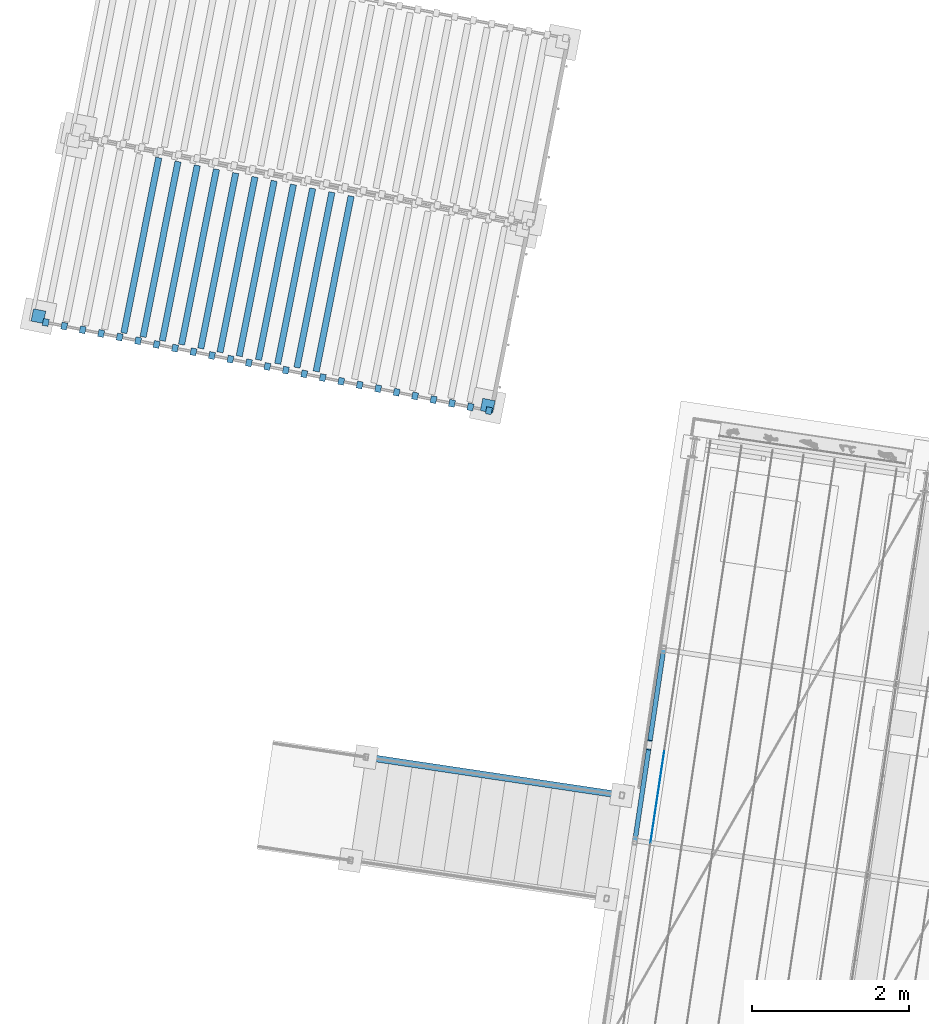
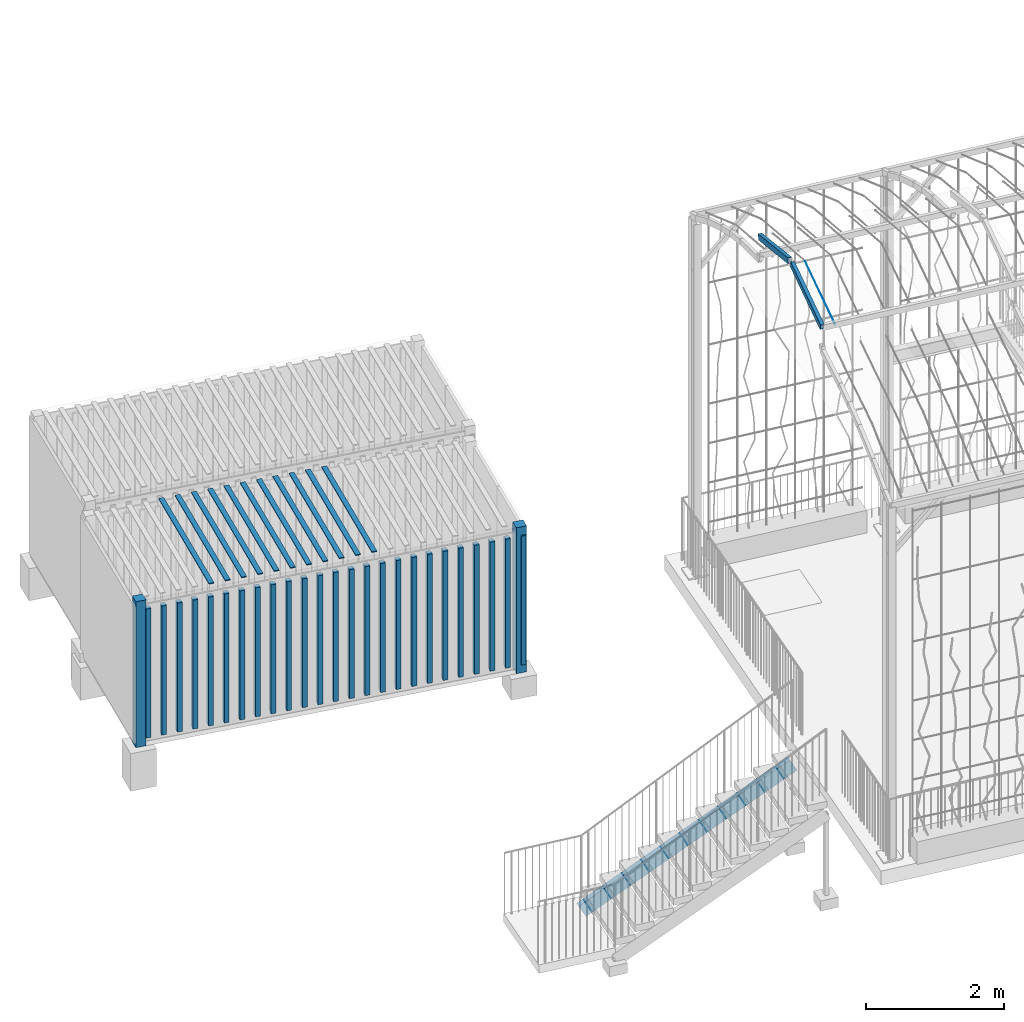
# One storey, part 26 of 142: 42 members, 3 elements without a shape of their own.
"""IFC4 building model written with IfcOpenShell, lengths in metres."""

from ifc_helpers import new_model, si_unit, direction, frame, origin_with_axes, place, context, subcontext, project, spatial, polyline, hollow_rectangle, circle, outline, extrude, material, material_profile, profile_set, profile_usage, type_object, element, aggregate, save


model = new_model("IFC4")

# Units and contexts
model_context = context("Model", 3, precision=1e-05, world=origin_with_axes(), true_north=direction((0.0, 1.0)))
body_context = subcontext(model_context, "Body", "Model", "MODEL_VIEW")
ifc_project = project(units=[si_unit("LENGTHUNIT", "METRE"), si_unit("AREAUNIT", "SQUARE_METRE"), si_unit("VOLUMEUNIT", "CUBIC_METRE")], contexts=[model_context])

# Site, building, storey
site_placement = place(None, origin_with_axes())
site = spatial("IfcSite", under=ifc_project, at=site_placement, Name="Lares · Rua das Mercês · artigo 4771")
building_placement = place(site_placement, frame((15.0, 9.7, 14.65), z_axis=(0.0, 0.0, 1.0), x_axis=(0.989015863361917, -0.147809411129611, 0.0)))
building = spatial("IfcBuilding", under=site, at=building_placement, Name="Casa Sobreposta")
storey_placement = place(building_placement, origin_with_axes())
storey = spatial("IfcBuildingStorey", under=building, at=storey_placement, Name="00 · Habitação e estacionamento", Elevation=14.65)

# Stair, member
stair_placement = place(storey_placement, origin_with_axes())
stair = element("IfcStair", 1, at=stair_placement, inside=storey, Name="Jardim · escada pela fachada poente", PredefinedType="STRAIGHT_RUN_STAIR")
ifc_material_1 = material(Name="Aço pintado / Stahl lackiert", Category="steel")
ifc_material_profile_1 = material_profile(ifc_material_1, outline(polyline([(-0.0425, -0.12), (0.0425, -0.12), (0.0425, -0.1102), (-0.0325, -0.1102), (-0.0325, 0.1102), (0.0425, 0.1102), (0.0425, 0.12), (-0.0425, 0.12), (-0.0425, -0.12)])))
ifc_profile_set_1 = profile_set([ifc_material_profile_1], Name="C240")
ifc_profile_usage_1 = profile_usage(ifc_profile_set_1)
member_type_1 = type_object("IfcMemberType", Name="C240 / steel", PredefinedType="NOTDEFINED", material=ifc_profile_set_1)
member_1_placement = place(stair_placement, frame((-6.25, 1.765, -0.419166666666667), z_axis=(-0.883369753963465, 0.0, -0.468676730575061), x_axis=(0.0, 1.0, 0.0)))
member_1 = element("IfcMember", 2, at=member_1_placement, type_object=member_type_1, material=ifc_profile_usage_1, Name="Jardim · longarina poente", context=body_context, shape_type="SweptSolid", body=[
    extrude(outline(polyline([(-0.0425, -0.12), (0.0425, -0.12), (0.0425, -0.1102), (-0.0325, -0.1102), (-0.0325, 0.1102), (0.0425, 0.1102), (0.0425, 0.12), (-0.0425, 0.12), (-0.0425, -0.12)])), origin_with_axes(), (0.0, 0.0, 1.0), 3.73569503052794),
])
aggregate(stair, [member_1])

# Assembly, members
assembly_1_placement = place(storey_placement, origin_with_axes())
assembly_1 = element("IfcElementAssembly", 3, at=assembly_1_placement, inside=storey, Name="Pérgola · prolongamento da estufa 6 m", ObjectType="PERGOLA_GREENHOUSE_EXTENSION", PredefinedType="USERDEFINED")
ifc_material_profile_2 = material_profile(ifc_material_1, hollow_rectangle(XDim=0.06, YDim=0.1, WallThickness=0.004))
ifc_profile_set_2 = profile_set([ifc_material_profile_2], Name="RHS100x60x4")
ifc_profile_usage_2 = profile_usage(ifc_profile_set_2)
member_type_2 = type_object("IfcMemberType", Name="RHS100x60x4 / steel", PredefinedType="NOTDEFINED", material=ifc_profile_set_2)
member_2_placement = place(assembly_1_placement, frame((-6.0, 1.22042020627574, 7.62067689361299), z_axis=(0.0, 0.960073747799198, 0.279747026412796), x_axis=(1.0, 0.0, 0.0)))
member_2 = element("IfcMember", 4, at=member_2_placement, type_object=member_type_2, material=ifc_profile_usage_2, Name="Pérgola · arco contínuo com a estufa", context=body_context, shape_type="SweptSolid", body=[
    extrude(hollow_rectangle(XDim=0.06, YDim=0.1, WallThickness=0.004), origin_with_axes(), (0.0, 0.0, 1.0), 1.23148937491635),
])
ifc_profile_usage_3 = profile_usage(ifc_profile_set_2)
member_3_placement = place(assembly_1_placement, frame((-6.0, 2.49770027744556, 7.96518238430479), z_axis=(0.0, 0.96007374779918, -0.279747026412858), x_axis=(1.0, 0.0, 0.0)))
member_3 = element("IfcMember", 5, at=member_3_placement, type_object=member_type_2, material=ifc_profile_usage_3, Name="Pérgola · arco contínuo com a estufa", context=body_context, shape_type="SweptSolid", body=[
    extrude(hollow_rectangle(XDim=0.06, YDim=0.1, WallThickness=0.004), origin_with_axes(), (0.0, 0.0, 1.0), 1.23148937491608),
])
ifc_material_2 = material(Name="Aço galvanizado / Stahl verzinkt", Category="steel")
ifc_material_profile_3 = material_profile(ifc_material_2, circle(Radius=0.002))
ifc_profile_set_3 = profile_set([ifc_material_profile_3], Name="D0.004")
ifc_profile_usage_4 = profile_usage(ifc_profile_set_3)
member_type_3 = type_object("IfcMemberType", Name="D0.004 / galvanized", PredefinedType="NOTDEFINED", material=ifc_profile_set_3)
member_4_placement = place(assembly_1_placement, frame((-5.8, 1.22042020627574, 7.62067689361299), z_axis=(0.0, 0.960073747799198, 0.279747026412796), x_axis=(1.0, 0.0, 0.0)))
member_4 = element("IfcMember", 6, at=member_4_placement, type_object=member_type_3, material=ifc_profile_usage_4, Name="Pérgola · fio para trepadeiras", context=body_context, shape_type="SweptSolid", body=[
    extrude(circle(Radius=0.002), origin_with_axes(), (0.0, 0.0, 1.0), 1.23148937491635),
])
aggregate(assembly_1, [member_2, member_3, member_4])

assembly_2_placement = place(storey_placement, frame((-14.5932944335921, 6.63122214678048, 0.0), z_axis=(0.0, 0.0, 1.0), x_axis=(0.998832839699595, -0.0483007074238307, 0.0)))
assembly_2 = element("IfcElementAssembly", 7, at=assembly_2_placement, inside=storey, Name="Contentor existente 2 · 6 m", ObjectType="EXISTING_SHIPPING_CONTAINER", PredefinedType="USERDEFINED")
ifc_material_3 = material(Name="Contentor · pintura 2", Category="steel")
member_5_placement = place(assembly_2_placement, frame((0.0, 0.0, -1.16875169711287), z_axis=(0.0, 0.0, 1.0), x_axis=(1.0, 0.0, 0.0)))
member_5 = element("IfcMember", 8, at=member_5_placement, material=ifc_material_3, Name="Contentor · canto", context=body_context, shape_type="SweptSolid", body=[
    extrude(outline(polyline([(0.16, 0.0), (0.16, 0.16), (0.0, 0.16), (0.0, 0.0), (0.16, 0.0)])), origin_with_axes(), (0.0, 0.0, 1.0), 2.59),
])
member_6_placement = place(assembly_2_placement, frame((0.0, 0.0, -1.16875169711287), z_axis=(0.0, 0.0, 1.0), x_axis=(1.0, 0.0, 0.0)))
member_6 = element("IfcMember", 9, at=member_6_placement, material=ifc_material_3, Name="Contentor · canto", context=body_context, shape_type="SweptSolid", body=[
    extrude(outline(polyline([(6.0, 0.0), (6.0, 0.16), (5.84, 0.16), (5.84, 0.0), (6.0, 0.0)])), origin_with_axes(), (0.0, 0.0, 1.0), 2.59),
])
member_7_placement = place(assembly_2_placement, frame((0.0, 0.0, -1.01875169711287), z_axis=(0.0, 0.0, 1.0), x_axis=(1.0, 0.0, 0.0)))
member_7 = element("IfcMember", 10, at=member_7_placement, material=ifc_material_3, Name="Contentor · nervura lateral", context=body_context, shape_type="SweptSolid", body=[
    extrude(outline(polyline([(0.225, -0.025), (0.225, 0.065), (0.15, 0.065), (0.15, -0.025), (0.225, -0.025)])), origin_with_axes(), (0.0, 0.0, 1.0), 2.29),
])
member_8_placement = place(assembly_2_placement, frame((0.0, 0.0, -1.01875169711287), z_axis=(0.0, 0.0, 1.0), x_axis=(1.0, 0.0, 0.0)))
member_8 = element("IfcMember", 11, at=member_8_placement, material=ifc_material_3, Name="Contentor · nervura lateral", context=body_context, shape_type="SweptSolid", body=[
    extrude(outline(polyline([(0.465, -0.025), (0.465, 0.065), (0.39, 0.065), (0.39, -0.025), (0.465, -0.025)])), origin_with_axes(), (0.0, 0.0, 1.0), 2.29),
])
member_9_placement = place(assembly_2_placement, frame((0.0, 0.0, -1.01875169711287), z_axis=(0.0, 0.0, 1.0), x_axis=(1.0, 0.0, 0.0)))
member_9 = element("IfcMember", 12, at=member_9_placement, material=ifc_material_3, Name="Contentor · nervura lateral", context=body_context, shape_type="SweptSolid", body=[
    extrude(outline(polyline([(0.705, -0.025), (0.705, 0.065), (0.63, 0.065), (0.63, -0.025), (0.705, -0.025)])), origin_with_axes(), (0.0, 0.0, 1.0), 2.29),
])
member_10_placement = place(assembly_2_placement, frame((0.0, 0.0, -1.01875169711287), z_axis=(0.0, 0.0, 1.0), x_axis=(1.0, 0.0, 0.0)))
member_10 = element("IfcMember", 13, at=member_10_placement, material=ifc_material_3, Name="Contentor · nervura lateral", context=body_context, shape_type="SweptSolid", body=[
    extrude(outline(polyline([(0.945, -0.025), (0.945, 0.065), (0.87, 0.065), (0.87, -0.025), (0.945, -0.025)])), origin_with_axes(), (0.0, 0.0, 1.0), 2.29),
])
member_11_placement = place(assembly_2_placement, frame((0.0, 0.0, -1.01875169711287), z_axis=(0.0, 0.0, 1.0), x_axis=(1.0, 0.0, 0.0)))
member_11 = element("IfcMember", 14, at=member_11_placement, material=ifc_material_3, Name="Contentor · nervura lateral", context=body_context, shape_type="SweptSolid", body=[
    extrude(outline(polyline([(1.185, -0.025), (1.185, 0.065), (1.11, 0.065), (1.11, -0.025), (1.185, -0.025)])), origin_with_axes(), (0.0, 0.0, 1.0), 2.29),
])
member_12_placement = place(assembly_2_placement, frame((0.0, 0.0, -1.01875169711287), z_axis=(0.0, 0.0, 1.0), x_axis=(1.0, 0.0, 0.0)))
member_12 = element("IfcMember", 15, at=member_12_placement, material=ifc_material_3, Name="Contentor · nervura lateral", context=body_context, shape_type="SweptSolid", body=[
    extrude(outline(polyline([(1.425, -0.025), (1.425, 0.065), (1.35, 0.065), (1.35, -0.025), (1.425, -0.025)])), origin_with_axes(), (0.0, 0.0, 1.0), 2.29),
])
member_13_placement = place(assembly_2_placement, frame((0.0, 0.0, -1.01875169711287), z_axis=(0.0, 0.0, 1.0), x_axis=(1.0, 0.0, 0.0)))
member_13 = element("IfcMember", 16, at=member_13_placement, material=ifc_material_3, Name="Contentor · nervura lateral", context=body_context, shape_type="SweptSolid", body=[
    extrude(outline(polyline([(1.665, -0.025), (1.665, 0.065), (1.59, 0.065), (1.59, -0.025), (1.665, -0.025)])), origin_with_axes(), (0.0, 0.0, 1.0), 2.29),
])
member_14_placement = place(assembly_2_placement, frame((0.0, 0.0, -1.01875169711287), z_axis=(0.0, 0.0, 1.0), x_axis=(1.0, 0.0, 0.0)))
member_14 = element("IfcMember", 17, at=member_14_placement, material=ifc_material_3, Name="Contentor · nervura lateral", context=body_context, shape_type="SweptSolid", body=[
    extrude(outline(polyline([(1.905, -0.025), (1.905, 0.065), (1.83, 0.065), (1.83, -0.025), (1.905, -0.025)])), origin_with_axes(), (0.0, 0.0, 1.0), 2.29),
])
member_15_placement = place(assembly_2_placement, frame((0.0, 0.0, -1.01875169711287), z_axis=(0.0, 0.0, 1.0), x_axis=(1.0, 0.0, 0.0)))
member_15 = element("IfcMember", 18, at=member_15_placement, material=ifc_material_3, Name="Contentor · nervura lateral", context=body_context, shape_type="SweptSolid", body=[
    extrude(outline(polyline([(2.145, -0.025), (2.145, 0.065), (2.07, 0.065), (2.07, -0.025), (2.145, -0.025)])), origin_with_axes(), (0.0, 0.0, 1.0), 2.29),
])
member_16_placement = place(assembly_2_placement, frame((0.0, 0.0, -1.01875169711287), z_axis=(0.0, 0.0, 1.0), x_axis=(1.0, 0.0, 0.0)))
member_16 = element("IfcMember", 19, at=member_16_placement, material=ifc_material_3, Name="Contentor · nervura lateral", context=body_context, shape_type="SweptSolid", body=[
    extrude(outline(polyline([(2.385, -0.025), (2.385, 0.065), (2.31, 0.065), (2.31, -0.025), (2.385, -0.025)])), origin_with_axes(), (0.0, 0.0, 1.0), 2.29),
])
member_17_placement = place(assembly_2_placement, frame((0.0, 0.0, -1.01875169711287), z_axis=(0.0, 0.0, 1.0), x_axis=(1.0, 0.0, 0.0)))
member_17 = element("IfcMember", 20, at=member_17_placement, material=ifc_material_3, Name="Contentor · nervura lateral", context=body_context, shape_type="SweptSolid", body=[
    extrude(outline(polyline([(2.625, -0.025), (2.625, 0.065), (2.55, 0.065), (2.55, -0.025), (2.625, -0.025)])), origin_with_axes(), (0.0, 0.0, 1.0), 2.29),
])
member_18_placement = place(assembly_2_placement, frame((0.0, 0.0, -1.01875169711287), z_axis=(0.0, 0.0, 1.0), x_axis=(1.0, 0.0, 0.0)))
member_18 = element("IfcMember", 21, at=member_18_placement, material=ifc_material_3, Name="Contentor · nervura lateral", context=body_context, shape_type="SweptSolid", body=[
    extrude(outline(polyline([(2.865, -0.025), (2.865, 0.065), (2.79, 0.065), (2.79, -0.025), (2.865, -0.025)])), origin_with_axes(), (0.0, 0.0, 1.0), 2.29),
])
member_19_placement = place(assembly_2_placement, frame((0.0, 0.0, -1.01875169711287), z_axis=(0.0, 0.0, 1.0), x_axis=(1.0, 0.0, 0.0)))
member_19 = element("IfcMember", 22, at=member_19_placement, material=ifc_material_3, Name="Contentor · nervura lateral", context=body_context, shape_type="SweptSolid", body=[
    extrude(outline(polyline([(3.105, -0.025), (3.105, 0.065), (3.03, 0.065), (3.03, -0.025), (3.105, -0.025)])), origin_with_axes(), (0.0, 0.0, 1.0), 2.29),
])
member_20_placement = place(assembly_2_placement, frame((0.0, 0.0, -1.01875169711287), z_axis=(0.0, 0.0, 1.0), x_axis=(1.0, 0.0, 0.0)))
member_20 = element("IfcMember", 23, at=member_20_placement, material=ifc_material_3, Name="Contentor · nervura lateral", context=body_context, shape_type="SweptSolid", body=[
    extrude(outline(polyline([(3.345, -0.025), (3.345, 0.065), (3.27, 0.065), (3.27, -0.025), (3.345, -0.025)])), origin_with_axes(), (0.0, 0.0, 1.0), 2.29),
])
member_21_placement = place(assembly_2_placement, frame((0.0, 0.0, -1.01875169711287), z_axis=(0.0, 0.0, 1.0), x_axis=(1.0, 0.0, 0.0)))
member_21 = element("IfcMember", 24, at=member_21_placement, material=ifc_material_3, Name="Contentor · nervura lateral", context=body_context, shape_type="SweptSolid", body=[
    extrude(outline(polyline([(3.585, -0.025), (3.585, 0.065), (3.51, 0.065), (3.51, -0.025), (3.585, -0.025)])), origin_with_axes(), (0.0, 0.0, 1.0), 2.29),
])
member_22_placement = place(assembly_2_placement, frame((0.0, 0.0, -1.01875169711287), z_axis=(0.0, 0.0, 1.0), x_axis=(1.0, 0.0, 0.0)))
member_22 = element("IfcMember", 25, at=member_22_placement, material=ifc_material_3, Name="Contentor · nervura lateral", context=body_context, shape_type="SweptSolid", body=[
    extrude(outline(polyline([(3.825, -0.025), (3.825, 0.065), (3.75, 0.065), (3.75, -0.025), (3.825, -0.025)])), origin_with_axes(), (0.0, 0.0, 1.0), 2.29),
])
member_23_placement = place(assembly_2_placement, frame((0.0, 0.0, -1.01875169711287), z_axis=(0.0, 0.0, 1.0), x_axis=(1.0, 0.0, 0.0)))
member_23 = element("IfcMember", 26, at=member_23_placement, material=ifc_material_3, Name="Contentor · nervura lateral", context=body_context, shape_type="SweptSolid", body=[
    extrude(outline(polyline([(4.065, -0.025), (4.065, 0.065), (3.99, 0.065), (3.99, -0.025), (4.065, -0.025)])), origin_with_axes(), (0.0, 0.0, 1.0), 2.29),
])
member_24_placement = place(assembly_2_placement, frame((0.0, 0.0, -1.01875169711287), z_axis=(0.0, 0.0, 1.0), x_axis=(1.0, 0.0, 0.0)))
member_24 = element("IfcMember", 27, at=member_24_placement, material=ifc_material_3, Name="Contentor · nervura lateral", context=body_context, shape_type="SweptSolid", body=[
    extrude(outline(polyline([(4.305, -0.025), (4.305, 0.065), (4.23, 0.065), (4.23, -0.025), (4.305, -0.025)])), origin_with_axes(), (0.0, 0.0, 1.0), 2.29),
])
member_25_placement = place(assembly_2_placement, frame((0.0, 0.0, -1.01875169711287), z_axis=(0.0, 0.0, 1.0), x_axis=(1.0, 0.0, 0.0)))
member_25 = element("IfcMember", 28, at=member_25_placement, material=ifc_material_3, Name="Contentor · nervura lateral", context=body_context, shape_type="SweptSolid", body=[
    extrude(outline(polyline([(4.545, -0.025), (4.545, 0.065), (4.47, 0.065), (4.47, -0.025), (4.545, -0.025)])), origin_with_axes(), (0.0, 0.0, 1.0), 2.29),
])
member_26_placement = place(assembly_2_placement, frame((0.0, 0.0, -1.01875169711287), z_axis=(0.0, 0.0, 1.0), x_axis=(1.0, 0.0, 0.0)))
member_26 = element("IfcMember", 29, at=member_26_placement, material=ifc_material_3, Name="Contentor · nervura lateral", context=body_context, shape_type="SweptSolid", body=[
    extrude(outline(polyline([(4.785, -0.025), (4.785, 0.065), (4.71, 0.065), (4.71, -0.025), (4.785, -0.025)])), origin_with_axes(), (0.0, 0.0, 1.0), 2.29),
])
member_27_placement = place(assembly_2_placement, frame((0.0, 0.0, -1.01875169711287), z_axis=(0.0, 0.0, 1.0), x_axis=(1.0, 0.0, 0.0)))
member_27 = element("IfcMember", 30, at=member_27_placement, material=ifc_material_3, Name="Contentor · nervura lateral", context=body_context, shape_type="SweptSolid", body=[
    extrude(outline(polyline([(5.025, -0.025), (5.025, 0.065), (4.95, 0.065), (4.95, -0.025), (5.025, -0.025)])), origin_with_axes(), (0.0, 0.0, 1.0), 2.29),
])
member_28_placement = place(assembly_2_placement, frame((0.0, 0.0, -1.01875169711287), z_axis=(0.0, 0.0, 1.0), x_axis=(1.0, 0.0, 0.0)))
member_28 = element("IfcMember", 31, at=member_28_placement, material=ifc_material_3, Name="Contentor · nervura lateral", context=body_context, shape_type="SweptSolid", body=[
    extrude(outline(polyline([(5.265, -0.025), (5.265, 0.065), (5.19, 0.065), (5.19, -0.025), (5.265, -0.025)])), origin_with_axes(), (0.0, 0.0, 1.0), 2.29),
])
member_29_placement = place(assembly_2_placement, frame((0.0, 0.0, -1.01875169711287), z_axis=(0.0, 0.0, 1.0), x_axis=(1.0, 0.0, 0.0)))
member_29 = element("IfcMember", 32, at=member_29_placement, material=ifc_material_3, Name="Contentor · nervura lateral", context=body_context, shape_type="SweptSolid", body=[
    extrude(outline(polyline([(5.505, -0.025), (5.505, 0.065), (5.43, 0.065), (5.43, -0.025), (5.505, -0.025)])), origin_with_axes(), (0.0, 0.0, 1.0), 2.29),
])
member_30_placement = place(assembly_2_placement, frame((0.0, 0.0, -1.01875169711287), z_axis=(0.0, 0.0, 1.0), x_axis=(1.0, 0.0, 0.0)))
member_30 = element("IfcMember", 33, at=member_30_placement, material=ifc_material_3, Name="Contentor · nervura lateral", context=body_context, shape_type="SweptSolid", body=[
    extrude(outline(polyline([(5.745, -0.025), (5.745, 0.065), (5.67, 0.065), (5.67, -0.025), (5.745, -0.025)])), origin_with_axes(), (0.0, 0.0, 1.0), 2.29),
])
member_31_placement = place(assembly_2_placement, frame((0.0, 0.0, -1.01875169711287), z_axis=(0.0, 0.0, 1.0), x_axis=(1.0, 0.0, 0.0)))
member_31 = element("IfcMember", 34, at=member_31_placement, material=ifc_material_3, Name="Contentor · nervura lateral", context=body_context, shape_type="SweptSolid", body=[
    extrude(outline(polyline([(5.985, -0.025), (5.985, 0.065), (5.91, 0.065), (5.91, -0.025), (5.985, -0.025)])), origin_with_axes(), (0.0, 0.0, 1.0), 2.29),
])
member_32_placement = place(assembly_2_placement, frame((0.0, 0.0, 1.41624830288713), z_axis=(0.0, 0.0, 1.0), x_axis=(1.0, 0.0, 0.0)))
member_32 = element("IfcMember", 35, at=member_32_placement, material=ifc_material_3, Name="Contentor · nervura cobertura", context=body_context, shape_type="SweptSolid", body=[
    extrude(outline(polyline([(1.23, 0.08), (1.23, 2.36), (1.15, 2.36), (1.15, 0.08), (1.23, 0.08)])), origin_with_axes(), (0.0, 0.0, 1.0), 0.018),
])
member_33_placement = place(assembly_2_placement, frame((0.0, 0.0, 1.41624830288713), z_axis=(0.0, 0.0, 1.0), x_axis=(1.0, 0.0, 0.0)))
member_33 = element("IfcMember", 36, at=member_33_placement, material=ifc_material_3, Name="Contentor · nervura cobertura", context=body_context, shape_type="SweptSolid", body=[
    extrude(outline(polyline([(1.48, 0.08), (1.48, 2.36), (1.4, 2.36), (1.4, 0.08), (1.48, 0.08)])), origin_with_axes(), (0.0, 0.0, 1.0), 0.018),
])
member_34_placement = place(assembly_2_placement, frame((0.0, 0.0, 1.41624830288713), z_axis=(0.0, 0.0, 1.0), x_axis=(1.0, 0.0, 0.0)))
member_34 = element("IfcMember", 37, at=member_34_placement, material=ifc_material_3, Name="Contentor · nervura cobertura", context=body_context, shape_type="SweptSolid", body=[
    extrude(outline(polyline([(1.73, 0.08), (1.73, 2.36), (1.65, 2.36), (1.65, 0.08), (1.73, 0.08)])), origin_with_axes(), (0.0, 0.0, 1.0), 0.018),
])
member_35_placement = place(assembly_2_placement, frame((0.0, 0.0, 1.41624830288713), z_axis=(0.0, 0.0, 1.0), x_axis=(1.0, 0.0, 0.0)))
member_35 = element("IfcMember", 38, at=member_35_placement, material=ifc_material_3, Name="Contentor · nervura cobertura", context=body_context, shape_type="SweptSolid", body=[
    extrude(outline(polyline([(1.98, 0.08), (1.98, 2.36), (1.9, 2.36), (1.9, 0.08), (1.98, 0.08)])), origin_with_axes(), (0.0, 0.0, 1.0), 0.018),
])
member_36_placement = place(assembly_2_placement, frame((0.0, 0.0, 1.41624830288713), z_axis=(0.0, 0.0, 1.0), x_axis=(1.0, 0.0, 0.0)))
member_36 = element("IfcMember", 39, at=member_36_placement, material=ifc_material_3, Name="Contentor · nervura cobertura", context=body_context, shape_type="SweptSolid", body=[
    extrude(outline(polyline([(2.23, 0.08), (2.23, 2.36), (2.15, 2.36), (2.15, 0.08), (2.23, 0.08)])), origin_with_axes(), (0.0, 0.0, 1.0), 0.018),
])
member_37_placement = place(assembly_2_placement, frame((0.0, 0.0, 1.41624830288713), z_axis=(0.0, 0.0, 1.0), x_axis=(1.0, 0.0, 0.0)))
member_37 = element("IfcMember", 40, at=member_37_placement, material=ifc_material_3, Name="Contentor · nervura cobertura", context=body_context, shape_type="SweptSolid", body=[
    extrude(outline(polyline([(2.48, 0.08), (2.48, 2.36), (2.4, 2.36), (2.4, 0.08), (2.48, 0.08)])), origin_with_axes(), (0.0, 0.0, 1.0), 0.018),
])
member_38_placement = place(assembly_2_placement, frame((0.0, 0.0, 1.41624830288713), z_axis=(0.0, 0.0, 1.0), x_axis=(1.0, 0.0, 0.0)))
member_38 = element("IfcMember", 41, at=member_38_placement, material=ifc_material_3, Name="Contentor · nervura cobertura", context=body_context, shape_type="SweptSolid", body=[
    extrude(outline(polyline([(2.73, 0.08), (2.73, 2.36), (2.65, 2.36), (2.65, 0.08), (2.73, 0.08)])), origin_with_axes(), (0.0, 0.0, 1.0), 0.018),
])
member_39_placement = place(assembly_2_placement, frame((0.0, 0.0, 1.41624830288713), z_axis=(0.0, 0.0, 1.0), x_axis=(1.0, 0.0, 0.0)))
member_39 = element("IfcMember", 42, at=member_39_placement, material=ifc_material_3, Name="Contentor · nervura cobertura", context=body_context, shape_type="SweptSolid", body=[
    extrude(outline(polyline([(2.98, 0.08), (2.98, 2.36), (2.9, 2.36), (2.9, 0.08), (2.98, 0.08)])), origin_with_axes(), (0.0, 0.0, 1.0), 0.018),
])
member_40_placement = place(assembly_2_placement, frame((0.0, 0.0, 1.41624830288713), z_axis=(0.0, 0.0, 1.0), x_axis=(1.0, 0.0, 0.0)))
member_40 = element("IfcMember", 43, at=member_40_placement, material=ifc_material_3, Name="Contentor · nervura cobertura", context=body_context, shape_type="SweptSolid", body=[
    extrude(outline(polyline([(3.23, 0.08), (3.23, 2.36), (3.15, 2.36), (3.15, 0.08), (3.23, 0.08)])), origin_with_axes(), (0.0, 0.0, 1.0), 0.018),
])
member_41_placement = place(assembly_2_placement, frame((0.0, 0.0, 1.41624830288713), z_axis=(0.0, 0.0, 1.0), x_axis=(1.0, 0.0, 0.0)))
member_41 = element("IfcMember", 44, at=member_41_placement, material=ifc_material_3, Name="Contentor · nervura cobertura", context=body_context, shape_type="SweptSolid", body=[
    extrude(outline(polyline([(3.48, 0.08), (3.48, 2.36), (3.4, 2.36), (3.4, 0.08), (3.48, 0.08)])), origin_with_axes(), (0.0, 0.0, 1.0), 0.018),
])
member_42_placement = place(assembly_2_placement, frame((0.0, 0.0, 1.41624830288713), z_axis=(0.0, 0.0, 1.0), x_axis=(1.0, 0.0, 0.0)))
member_42 = element("IfcMember", 45, at=member_42_placement, material=ifc_material_3, Name="Contentor · nervura cobertura", context=body_context, shape_type="SweptSolid", body=[
    extrude(outline(polyline([(3.73, 0.08), (3.73, 2.36), (3.65, 2.36), (3.65, 0.08), (3.73, 0.08)])), origin_with_axes(), (0.0, 0.0, 1.0), 0.018),
])
aggregate(assembly_2, [member_5, member_6, member_7, member_8, member_9, member_10, member_11, member_12, member_13, member_14, member_15, member_16, member_17, member_18, member_19, member_20, member_21, member_22, member_23, member_24, member_25, member_26, member_27, member_28, member_29, member_30, member_31, member_32, member_33, member_34, member_35, member_36, member_37, member_38, member_39, member_40, member_41, member_42])

save(model, "model.ifc")
